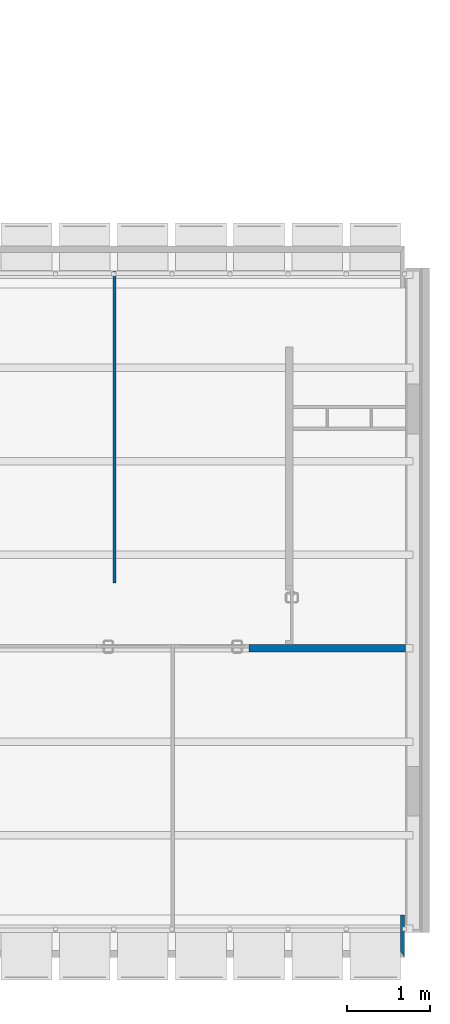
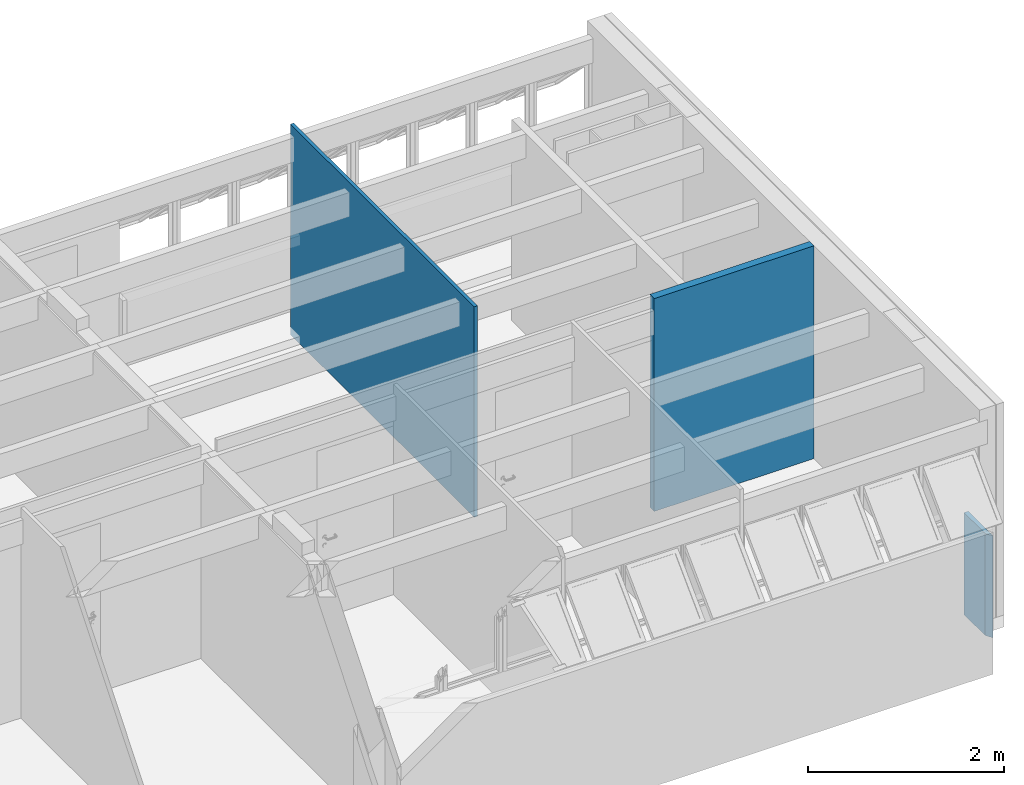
# One storey, part 24 of 40: 3 walls.
"""IFC4 building model written with IfcOpenShell, lengths in millimetres."""

from ifc_helpers import new_model, entity, si_unit, converted_unit, derived_unit, direction, frame, origin_with_axes, place, context, subcontext, project, spatial, line, indexed_curve, outline, extrude, material, layer, layer_set, layer_usage, type_object, element, save


model = new_model("IFC4")

# Units and contexts
model_context = context("Model", 3, precision=0.01, world=origin_with_axes(), true_north=direction((0.0, 1.0)))
body_context = subcontext(model_context, "Body", "Model", "MODEL_VIEW")
ifc_project = project(units=[si_unit("LENGTHUNIT", "METRE", prefix="MILLI"), si_unit("AREAUNIT", "SQUARE_METRE"), si_unit("VOLUMEUNIT", "CUBIC_METRE"), converted_unit("PLANEANGLEUNIT", "DEGREE", entity("IfcPlaneAngleMeasure", 0.0174532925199), si_unit("PLANEANGLEUNIT", "RADIAN"), dimensions=[0, 0, 0, 0, 0, 0, 0]), converted_unit("TIMEUNIT", "Year", entity("IfcTimeMeasure", 31556926.0), si_unit("TIMEUNIT", "SECOND"), dimensions=[0, 0, 1, 0, 0, 0, 0]), si_unit("MASSUNIT", "GRAM", prefix="KILO"), si_unit("THERMODYNAMICTEMPERATUREUNIT", "DEGREE_CELSIUS"), si_unit("LUMINOUSINTENSITYUNIT", "LUMEN"), si_unit("ENERGYUNIT", "JOULE", prefix="MEGA"), derived_unit("THERMALCONDUCTANCEUNIT", [(si_unit("POWERUNIT", "WATT"), 1), (si_unit("LENGTHUNIT", "METRE"), -1), (si_unit("THERMODYNAMICTEMPERATUREUNIT", "KELVIN"), -1)]), derived_unit("SPECIFICHEATCAPACITYUNIT", [(si_unit("ENERGYUNIT", "JOULE"), 1), (si_unit("MASSUNIT", "GRAM", prefix="KILO"), -1), (si_unit("THERMODYNAMICTEMPERATUREUNIT", "KELVIN"), -1)]), derived_unit("MASSDENSITYUNIT", [(si_unit("MASSUNIT", "GRAM", prefix="KILO"), 1), (si_unit("VOLUMEUNIT", "CUBIC_METRE"), -1)])], contexts=[model_context])

# Site, building, storey
site_placement = place(None, origin_with_axes())
site = spatial("IfcSite", under=ifc_project, at=site_placement, Name="Local", CompositionType="ELEMENT")
building_placement = place(site_placement, origin_with_axes())
building = spatial("IfcBuilding", under=site, at=building_placement, Name="Construção", CompositionType="ELEMENT")
storey_placement = place(building_placement, frame((0.0, 0.0, 5300.0), z_axis=(0.0, 0.0, 1.0), x_axis=(1.0, 0.0, 0.0)))
storey = spatial("IfcBuildingStorey", under=building, at=storey_placement, Name="Terceiro Pavimento", CompositionType="ELEMENT", Elevation=5300.0)

# Walls
ifc_material_1 = material(Name="GENÉRICO - VEDAÇÃO EXTERNA")
ifc_layer_1 = layer(ifc_material_1, 40.0, ventilated="UNKNOWN", Name="GENÉRICO - VEDAÇÃO EXTERNA")
ifc_layer_set_1 = layer_set([ifc_layer_1], Name="GENÉRICO - VEDAÇÃO EXTERNA 40")
ifc_layer_usage_1 = layer_usage(ifc_layer_set_1, "AXIS2", "POSITIVE", -40.0)
wall_type_1 = type_object("IfcWallType", Name="GENÉRICO - VEDAÇÃO EXTERNA 40", PredefinedType="NOTDEFINED")
wall_1_placement = place(storey_placement, frame((10960.0, 4505.0, 0.0), z_axis=(0.0, 0.0, 1.0), x_axis=(0.0, 1.0, 0.0)))
element("IfcWall", 1, at=wall_1_placement, inside=storey, type_object=wall_type_1, material=ifc_layer_usage_1, Name="APTO10-PAREDE-003", PredefinedType="NOTDEFINED", context=body_context, shape_type="SweptSolid", body=[
    extrude(outline(indexed_curve([(0.0, -40.0), (3750.0, -40.0), (3750.0, 0.0), (0.0, 0.0)], segments=[line(1, 2, 3, 4, 1)])), origin_with_axes(), (0.0, 0.0, 1.0), 2620.0),
])
ifc_layer_2 = layer(ifc_material_1, 90.0, ventilated="UNKNOWN", Name="GENÉRICO - VEDAÇÃO EXTERNA")
ifc_layer_set_2 = layer_set([ifc_layer_2], Name="GENÉRICO - VEDAÇÃO EXTERNA 90")
ifc_layer_usage_2 = layer_usage(ifc_layer_set_2, "AXIS2", "POSITIVE", 0.0)
wall_type_2 = type_object("IfcWallType", Name="GENÉRICO - VEDAÇÃO EXTERNA 90", PredefinedType="NOTDEFINED")
wall_2_placement = place(storey_placement, frame((14480.0, 3765.2195667, 0.0), z_axis=(0.0, 0.0, 1.0), x_axis=(-1.0, 0.0, 0.0)))
element("IfcWall", 2, at=wall_2_placement, inside=storey, type_object=wall_type_2, material=ifc_layer_usage_2, Name="APTO10-PAREDE-019", PredefinedType="NOTDEFINED", context=body_context, shape_type="SweptSolid", body=[
    extrude(outline(indexed_curve([(0.0, 0.0), (1880.0, 0.0), (1879.99807021, 90.0), (0.0, 90.0)], segments=[line(1, 2, 3, 4, 1)])), origin_with_axes(), (0.0, 0.0, 1.0), 2650.0),
])
ifc_material_2 = material(Name="Concreto Armado Moldado in Loco - Estrutural")
ifc_layer_3 = layer(ifc_material_2, 50.0, ventilated="UNKNOWN", Name="Concreto Armado Moldado in Loco - Estrutural")
ifc_layer_set_3 = layer_set([ifc_layer_3], Name="Concreto Armado Moldado in Loco - Estrutural 50")
ifc_layer_usage_3 = layer_usage(ifc_layer_set_3, "AXIS2", "POSITIVE", -50.0)
wall_type_3 = type_object("IfcWallType", Name="Concreto Armado Moldado in Loco - Estrutural 50", PredefinedType="NOTDEFINED")
wall_3_placement = place(storey_placement, frame((14470.0, 510.0, 0.0), z_axis=(0.0, 0.0, 1.0), x_axis=(0.0, -1.0, 0.0)))
element("IfcWall", 3, at=wall_3_placement, inside=storey, type_object=wall_type_3, material=ifc_layer_usage_3, Name="APTO10-PAREDE-002", PredefinedType="NOTDEFINED", context=body_context, shape_type="SweptSolid", body=[
    extrude(outline(indexed_curve([(0.0, -50.0), (430.0, -50.0), (510.0, 0.0), (0.0, 0.0)], segments=[line(1, 2, 3, 4, 1)])), origin_with_axes(), (0.0, 0.0, 1.0), 1270.0),
])

save(model, "model.ifc")
